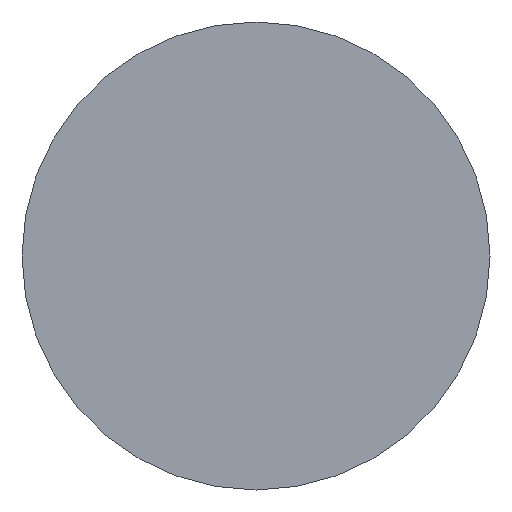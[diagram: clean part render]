
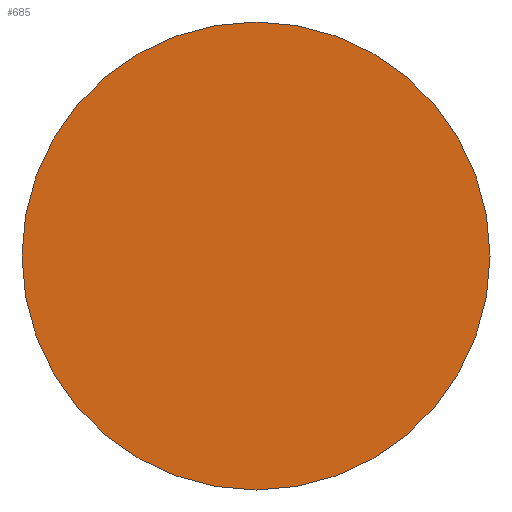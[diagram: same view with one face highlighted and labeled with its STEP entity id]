
A CAD part, left-side view. The second image highlights one B-rep face of the part: STEP entity #685.
In plain terms, the highlighted planar face has unit normal (-1, 0, 0).
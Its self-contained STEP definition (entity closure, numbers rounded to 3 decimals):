
#38=PLANE('',#757);
#141=FACE_OUTER_BOUND('',#179,.T.);
#179=EDGE_LOOP('',(#510,#511));
#229=CIRCLE('',#758,3.);
#230=CIRCLE('',#759,3.);
#302=VERTEX_POINT('',#1282);
#303=VERTEX_POINT('',#1283);
#386=EDGE_CURVE('',#302,#303,#229,.T.);
#387=EDGE_CURVE('',#303,#302,#230,.T.);
#510=ORIENTED_EDGE('',*,*,#386,.F.);
#511=ORIENTED_EDGE('',*,*,#387,.F.);
#685=ADVANCED_FACE('',(#141),#38,.T.);
#757=AXIS2_PLACEMENT_3D('',#1281,#899,#900);
#758=AXIS2_PLACEMENT_3D('',#1284,#901,#902);
#759=AXIS2_PLACEMENT_3D('',#1285,#903,#904);
#899=DIRECTION('center_axis',(-1.,0.,0.));
#900=DIRECTION('ref_axis',(0.,0.,1.));
#901=DIRECTION('center_axis',(1.,0.,0.));
#902=DIRECTION('ref_axis',(0.,0.,-1.));
#903=DIRECTION('center_axis',(1.,0.,0.));
#904=DIRECTION('ref_axis',(0.,0.,-1.));
#1281=CARTESIAN_POINT('Origin',(0.,3.,0.));
#1282=CARTESIAN_POINT('',(0.,3.,0.));
#1283=CARTESIAN_POINT('',(0.,-3.,0.));
#1284=CARTESIAN_POINT('Origin',(0.,0.,0.));
#1285=CARTESIAN_POINT('Origin',(0.,0.,0.));
